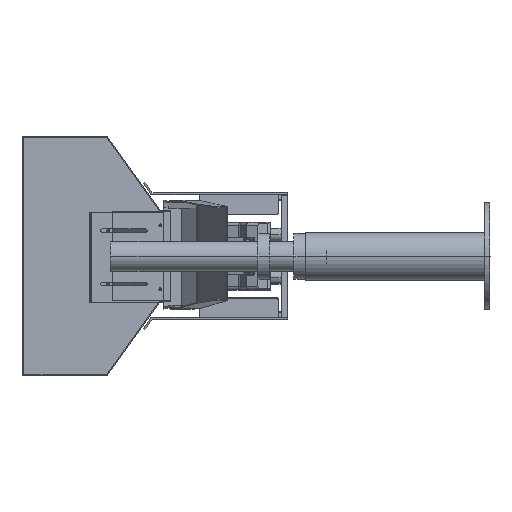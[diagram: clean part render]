
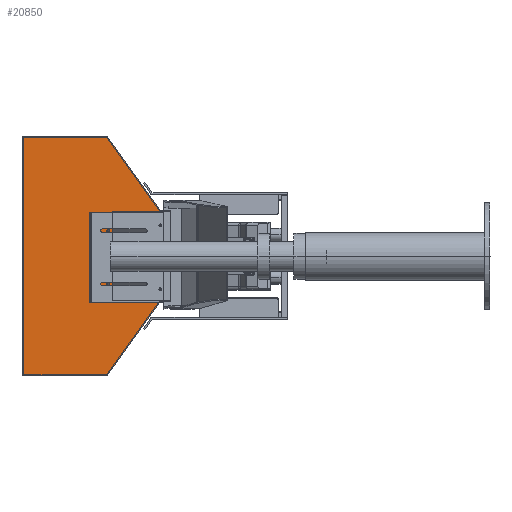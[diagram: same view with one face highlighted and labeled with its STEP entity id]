
A CAD part, left-side view. The second image highlights one B-rep face of the part: STEP entity #20850.
In plain terms, the highlighted planar face has unit normal (-1, 0, 0).
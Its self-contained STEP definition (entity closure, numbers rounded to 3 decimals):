
#64 = VECTOR ( 'NONE', #22596, 1000. ) ;
#85 = ORIENTED_EDGE ( 'NONE', *, *, #8119, .F. ) ;
#132 = CARTESIAN_POINT ( 'NONE',  ( -1346.357, -355.522, -311.999 ) ) ;
#255 = VECTOR ( 'NONE', #27475, 1000. ) ;
#521 = EDGE_CURVE ( 'NONE', #12953, #8831, #30589, .T. ) ;
#723 = CARTESIAN_POINT ( 'NONE',  ( -1346.357, -335.522, -311.999 ) ) ;
#1234 = CARTESIAN_POINT ( 'NONE',  ( -1346.357, -237.522, -279.585 ) ) ;
#1562 = DIRECTION ( 'NONE',  ( -1., 0., 0. ) ) ;
#1588 = VERTEX_POINT ( 'NONE', #28953 ) ;
#1608 = CARTESIAN_POINT ( 'NONE',  ( -1346.357, -355.522, -310.499 ) ) ;
#1623 = VERTEX_POINT ( 'NONE', #2393 ) ;
#2295 = CARTESIAN_POINT ( 'NONE',  ( -1346.357, -75.522, -1.999 ) ) ;
#2393 = CARTESIAN_POINT ( 'NONE',  ( -1346.357, -355.522, -309.004 ) ) ;
#2701 = EDGE_LOOP ( 'NONE', ( #15286, #26433 ) ) ;
#2726 = EDGE_CURVE ( 'NONE', #6349, #8003, #17624, .T. ) ;
#2903 = DIRECTION ( 'NONE',  ( 0., -1., 0. ) ) ;
#3454 = VERTEX_POINT ( 'NONE', #22866 ) ;
#3683 = VERTEX_POINT ( 'NONE', #18669 ) ;
#3859 = AXIS2_PLACEMENT_3D ( 'NONE', #12165, #9105, #16725 ) ;
#3870 = CARTESIAN_POINT ( 'NONE',  ( -1346.357, -355.522, -451.999 ) ) ;
#3884 = ORIENTED_EDGE ( 'NONE', *, *, #6136, .T. ) ;
#4451 = VERTEX_POINT ( 'NONE', #21509 ) ;
#4633 = LINE ( 'NONE', #14528, #5552 ) ;
#4748 = DIRECTION ( 'NONE',  ( 0., 0., 1. ) ) ;
#5262 = EDGE_CURVE ( 'NONE', #9810, #25944, #26392, .T. ) ;
#5501 = VECTOR ( 'NONE', #14040, 1000. ) ;
#5513 = CARTESIAN_POINT ( 'NONE',  ( -1346.357, -355.522, -310.499 ) ) ;
#5552 = VECTOR ( 'NONE', #21188, 1000. ) ;
#5602 = DIRECTION ( 'NONE',  ( 0., 0., 1. ) ) ;
#6136 = EDGE_CURVE ( 'NONE', #7642, #8831, #22618, .T. ) ;
#6349 = VERTEX_POINT ( 'NONE', #16941 ) ;
#6718 = DIRECTION ( 'NONE',  ( -1., 0., 0. ) ) ;
#6886 = DIRECTION ( 'NONE',  ( 0., 0.581, 0.814 ) ) ;
#7252 = CARTESIAN_POINT ( 'NONE',  ( -1346.357, -237.522, -279.585 ) ) ;
#7373 = ORIENTED_EDGE ( 'NONE', *, *, #16212, .F. ) ;
#7440 = CARTESIAN_POINT ( 'NONE',  ( -1346.357, -245.522, -310.499 ) ) ;
#7642 = VERTEX_POINT ( 'NONE', #17597 ) ;
#7976 = CIRCLE ( 'NONE', #13150, 2.6 ) ;
#8003 = VERTEX_POINT ( 'NONE', #28374 ) ;
#8119 = EDGE_CURVE ( 'NONE', #4451, #3683, #29716, .T. ) ;
#8132 = VECTOR ( 'NONE', #16386, 1000. ) ;
#8593 = EDGE_LOOP ( 'NONE', ( #85, #27269 ) ) ;
#8656 = CARTESIAN_POINT ( 'NONE',  ( -1346.357, -245.522, -310.499 ) ) ;
#8781 = CARTESIAN_POINT ( 'NONE',  ( -1346.357, -355.522, -141.999 ) ) ;
#8831 = VERTEX_POINT ( 'NONE', #26766 ) ;
#8975 = VECTOR ( 'NONE', #2903, 1000. ) ;
#9105 = DIRECTION ( 'NONE',  ( -1., 0., 0. ) ) ;
#9520 = DIRECTION ( 'NONE',  ( 0., 0., 1. ) ) ;
#9810 = VERTEX_POINT ( 'NONE', #18427 ) ;
#9978 = EDGE_CURVE ( 'NONE', #9810, #28107, #16962, .T. ) ;
#11233 = VERTEX_POINT ( 'NONE', #8781 ) ;
#11413 = VERTEX_POINT ( 'NONE', #30115 ) ;
#11596 = EDGE_CURVE ( 'NONE', #1623, #6349, #14427, .T. ) ;
#11741 = PLANE ( 'NONE',  #27112 ) ;
#11809 = DIRECTION ( 'NONE',  ( 0., 0., 1. ) ) ;
#11934 = ORIENTED_EDGE ( 'NONE', *, *, #521, .F. ) ;
#12165 = CARTESIAN_POINT ( 'NONE',  ( -1346.357, -237.522, -179.585 ) ) ;
#12347 = VECTOR ( 'NONE', #5602, 1000. ) ;
#12550 = LINE ( 'NONE', #22422, #64 ) ;
#12953 = VERTEX_POINT ( 'NONE', #8656 ) ;
#13150 = AXIS2_PLACEMENT_3D ( 'NONE', #7252, #24899, #9520 ) ;
#14040 = DIRECTION ( 'NONE',  ( 0., 0., 1. ) ) ;
#14248 = EDGE_CURVE ( 'NONE', #11233, #29085, #4633, .T. ) ;
#14286 = DIRECTION ( 'NONE',  ( 0., 0., -1. ) ) ;
#14427 = LINE ( 'NONE', #1608, #31459 ) ;
#14528 = CARTESIAN_POINT ( 'NONE',  ( -1346.357, -355.522, -141.999 ) ) ;
#14730 = CARTESIAN_POINT ( 'NONE',  ( -1346.357, -235.522, -451.999 ) ) ;
#15041 = VECTOR ( 'NONE', #25751, 1000. ) ;
#15286 = ORIENTED_EDGE ( 'NONE', *, *, #20184, .F. ) ;
#15657 = VECTOR ( 'NONE', #6886, 1000. ) ;
#16095 = CARTESIAN_POINT ( 'NONE',  ( -1346.357, -335.522, -311.999 ) ) ;
#16212 = EDGE_CURVE ( 'NONE', #28107, #1588, #12550, .T. ) ;
#16386 = DIRECTION ( 'NONE',  ( 0., -1., 0. ) ) ;
#16477 = CARTESIAN_POINT ( 'NONE',  ( -1346.357, -237.522, -179.585 ) ) ;
#16725 = DIRECTION ( 'NONE',  ( 0., 0., 1. ) ) ;
#16770 = FACE_OUTER_BOUND ( 'NONE', #24875, .T. ) ;
#16941 = CARTESIAN_POINT ( 'NONE',  ( -1346.357, -355.522, -143.499 ) ) ;
#16962 = LINE ( 'NONE', #26810, #5501 ) ;
#17146 = EDGE_CURVE ( 'NONE', #29085, #1588, #21659, .T. ) ;
#17597 = CARTESIAN_POINT ( 'NONE',  ( -1346.357, -355.522, -311.999 ) ) ;
#17624 = LINE ( 'NONE', #20053, #255 ) ;
#18427 = CARTESIAN_POINT ( 'NONE',  ( -1346.357, -75.522, -451.999 ) ) ;
#18669 = CARTESIAN_POINT ( 'NONE',  ( -1346.357, -237.522, -182.185 ) ) ;
#18715 = CIRCLE ( 'NONE', #27964, 2.6 ) ;
#18843 = EDGE_CURVE ( 'NONE', #1623, #11233, #26055, .T. ) ;
#19296 = EDGE_CURVE ( 'NONE', #3454, #11413, #21904, .T. ) ;
#19388 = VECTOR ( 'NONE', #14286, 1000. ) ;
#20053 = CARTESIAN_POINT ( 'NONE',  ( -1346.357, -355.522, -143.499 ) ) ;
#20184 = EDGE_CURVE ( 'NONE', #11413, #3454, #7976, .T. ) ;
#20628 = LINE ( 'NONE', #16095, #29695 ) ;
#20850 = ADVANCED_FACE ( 'NONE', ( #29673, #31956, #16770 ), #11741, .T. ) ;
#21066 = EDGE_CURVE ( 'NONE', #25944, #27542, #20628, .T. ) ;
#21188 = DIRECTION ( 'NONE',  ( 0., 1., 0. ) ) ;
#21228 = CARTESIAN_POINT ( 'NONE',  ( -1346.357, -75.522, -451.999 ) ) ;
#21509 = CARTESIAN_POINT ( 'NONE',  ( -1346.357, -237.522, -176.985 ) ) ;
#21659 = LINE ( 'NONE', #29063, #15657 ) ;
#21717 = EDGE_CURVE ( 'NONE', #3683, #4451, #18715, .T. ) ;
#21869 = ORIENTED_EDGE ( 'NONE', *, *, #17146, .T. ) ;
#21904 = CIRCLE ( 'NONE', #31708, 2.6 ) ;
#22370 = ORIENTED_EDGE ( 'NONE', *, *, #2726, .F. ) ;
#22422 = CARTESIAN_POINT ( 'NONE',  ( -1346.357, -75.522, -1.999 ) ) ;
#22596 = DIRECTION ( 'NONE',  ( 0., -1., 0. ) ) ;
#22618 = LINE ( 'NONE', #27774, #12347 ) ;
#22817 = ORIENTED_EDGE ( 'NONE', *, *, #5262, .T. ) ;
#22866 = CARTESIAN_POINT ( 'NONE',  ( -1346.357, -237.522, -282.185 ) ) ;
#23138 = EDGE_CURVE ( 'NONE', #27542, #7642, #24613, .T. ) ;
#23231 = CARTESIAN_POINT ( 'NONE',  ( -1346.357, -335.522, -141.999 ) ) ;
#23664 = ORIENTED_EDGE ( 'NONE', *, *, #11596, .F. ) ;
#23766 = DIRECTION ( 'NONE',  ( 0., 0., 1. ) ) ;
#24201 = DIRECTION ( 'NONE',  ( -1., 0., 0. ) ) ;
#24436 = VECTOR ( 'NONE', #11809, 1000. ) ;
#24451 = LINE ( 'NONE', #7440, #19388 ) ;
#24613 = LINE ( 'NONE', #132, #8975 ) ;
#24645 = ORIENTED_EDGE ( 'NONE', *, *, #23138, .T. ) ;
#24875 = EDGE_LOOP ( 'NONE', ( #21869, #7373, #28298, #22817, #29091, #24645, #3884, #11934, #30689, #22370, #23664, #31999, #25118 ) ) ;
#24899 = DIRECTION ( 'NONE',  ( -1., 0., 0. ) ) ;
#25118 = ORIENTED_EDGE ( 'NONE', *, *, #14248, .T. ) ;
#25751 = DIRECTION ( 'NONE',  ( 0., -1., 0. ) ) ;
#25944 = VERTEX_POINT ( 'NONE', #14730 ) ;
#26055 = LINE ( 'NONE', #3870, #24436 ) ;
#26112 = DIRECTION ( 'NONE',  ( 0., -0.581, 0.814 ) ) ;
#26392 = LINE ( 'NONE', #21228, #8132 ) ;
#26433 = ORIENTED_EDGE ( 'NONE', *, *, #19296, .F. ) ;
#26766 = CARTESIAN_POINT ( 'NONE',  ( -1346.357, -355.522, -310.499 ) ) ;
#26810 = CARTESIAN_POINT ( 'NONE',  ( -1346.357, -75.522, -451.999 ) ) ;
#27112 = AXIS2_PLACEMENT_3D ( 'NONE', #29506, #24201, #4748 ) ;
#27269 = ORIENTED_EDGE ( 'NONE', *, *, #21717, .F. ) ;
#27475 = DIRECTION ( 'NONE',  ( 0., 1., 0. ) ) ;
#27542 = VERTEX_POINT ( 'NONE', #723 ) ;
#27774 = CARTESIAN_POINT ( 'NONE',  ( -1346.357, -355.522, -451.999 ) ) ;
#27964 = AXIS2_PLACEMENT_3D ( 'NONE', #16477, #6718, #28573 ) ;
#28107 = VERTEX_POINT ( 'NONE', #2295 ) ;
#28298 = ORIENTED_EDGE ( 'NONE', *, *, #9978, .F. ) ;
#28374 = CARTESIAN_POINT ( 'NONE',  ( -1346.357, -245.522, -143.499 ) ) ;
#28573 = DIRECTION ( 'NONE',  ( 0., 0., 1. ) ) ;
#28953 = CARTESIAN_POINT ( 'NONE',  ( -1346.357, -235.522, -1.999 ) ) ;
#29063 = CARTESIAN_POINT ( 'NONE',  ( -1346.357, -335.522, -141.999 ) ) ;
#29085 = VERTEX_POINT ( 'NONE', #23231 ) ;
#29091 = ORIENTED_EDGE ( 'NONE', *, *, #21066, .T. ) ;
#29506 = CARTESIAN_POINT ( 'NONE',  ( -1346.357, -355.522, -451.999 ) ) ;
#29666 = EDGE_CURVE ( 'NONE', #8003, #12953, #24451, .T. ) ;
#29673 = FACE_BOUND ( 'NONE', #8593, .T. ) ;
#29695 = VECTOR ( 'NONE', #26112, 1000. ) ;
#29716 = CIRCLE ( 'NONE', #3859, 2.6 ) ;
#30115 = CARTESIAN_POINT ( 'NONE',  ( -1346.357, -237.522, -276.985 ) ) ;
#30589 = LINE ( 'NONE', #5513, #15041 ) ;
#30689 = ORIENTED_EDGE ( 'NONE', *, *, #29666, .F. ) ;
#31459 = VECTOR ( 'NONE', #31554, 1000. ) ;
#31554 = DIRECTION ( 'NONE',  ( 0., 0., 1. ) ) ;
#31708 = AXIS2_PLACEMENT_3D ( 'NONE', #1234, #1562, #23766 ) ;
#31956 = FACE_BOUND ( 'NONE', #2701, .T. ) ;
#31999 = ORIENTED_EDGE ( 'NONE', *, *, #18843, .T. ) ;
